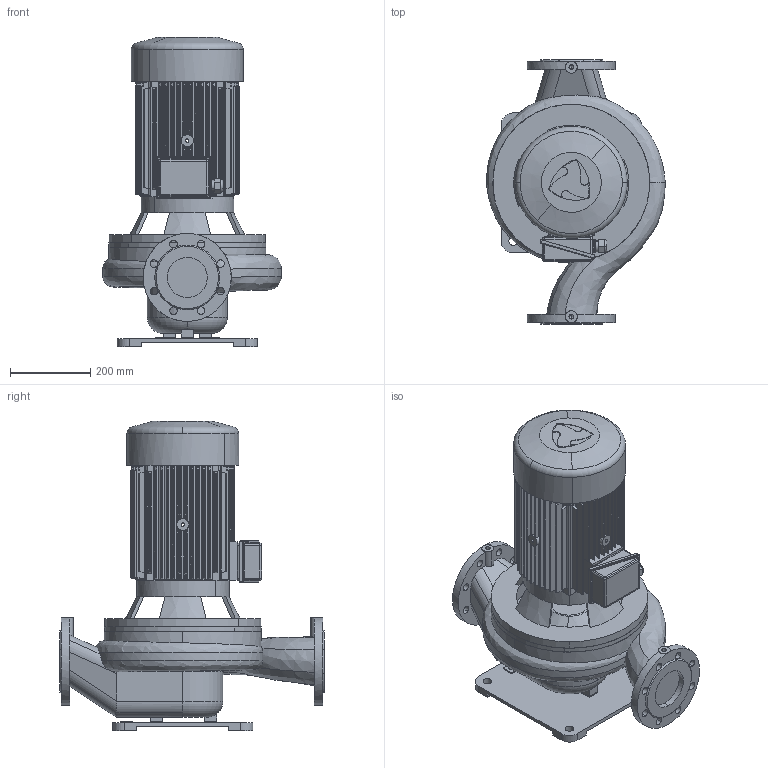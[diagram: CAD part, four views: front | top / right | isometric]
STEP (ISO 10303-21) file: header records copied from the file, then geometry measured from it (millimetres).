
FILE_DESCRIPTION(('STEP AP214'),'1');
FILE_NAME('export.stp','2018-05-29T07:54:06',(' '),(' '),'Spatial InterOp 3D',' ',' ');
FILE_SCHEMA(('AUTOMOTIVE_DESIGN { 1 0 10303 214 1 1 1 1 }'));
Length unit declared in the file: millimetre
Products named in the file (9): W_L100S4750_IE3; V_EKF31OKN132133; V_TLL100SAL1202; V_PPL100S; V_JALKA30940; V_MKP134; TSUOJA_OKN_132_133; KYTKOTELO_OKN_100_133; R201240
Assembly tree (8 placements, depth 3):
  W_L100S4750_IE3
    V_EKF31OKN132133
    V_TLL100SAL1202
    V_PPL100S
    V_JALKA30940
    V_MKP134
      TSUOJA_OKN_132_133
      KYTKOTELO_OKN_100_133
      R201240
Bounding box: 446.34 x 660 x 773 mm (x, y, z)
Volume: 35938717.9 mm3; surface area: 2851923.4 mm2
Topology: 7 solids, 8 shells, 1191 faces, 3321 edges, 2136 vertices
Faces by surface type: cylinder 628, plane 405, cone 100, bspline 26, torus 20, sphere 12
Entity records: 59367 total; most frequent: CARTESIAN_POINT 16317, ORIENTED_EDGE 6550, DIRECTION 6167, EDGE_CURVE 3275, AXIS2_PLACEMENT_3D 2350, VERTEX_POINT 2136, STYLED_ITEM 1840, PRESENTATION_STYLE_ASSIGNMENT 1840
